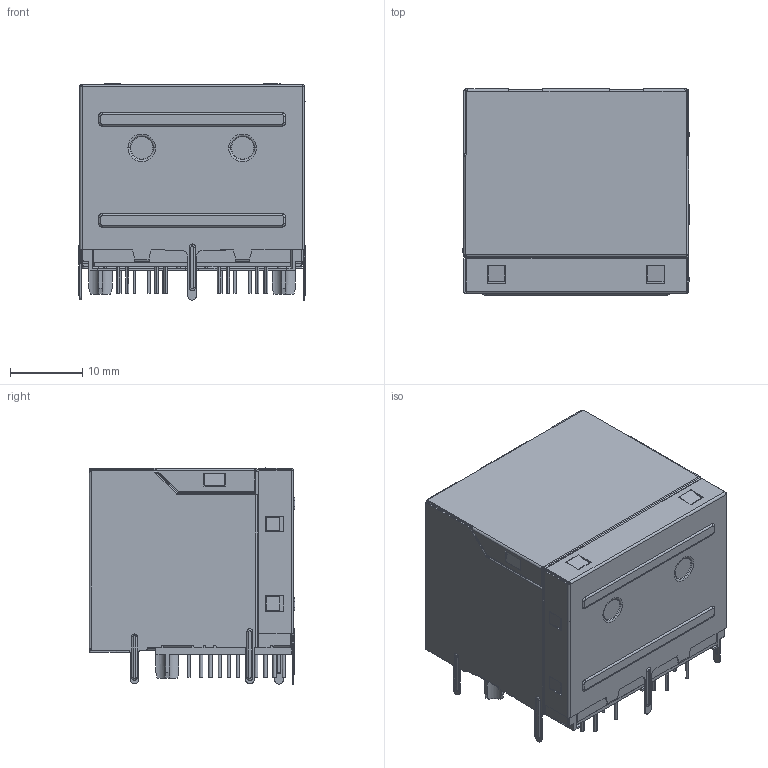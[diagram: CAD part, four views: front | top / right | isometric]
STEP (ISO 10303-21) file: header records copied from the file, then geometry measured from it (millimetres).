
FILE_DESCRIPTION((''),'2;1');
FILE_NAME('2X2_ASM_ASM_45_ASM_1_ASM_1_ASM','2024-01-19T11:02:25',('Administrator'),(''),'CREO PARAMETRIC BY PTC INC, 2019010','CREO PARAMETRIC BY PTC INC, 2019010','');
FILE_SCHEMA(('CONFIG_CONTROL_DESIGN'));
Products named in the file (3): 2X2-HOUSING_9_1_1; 2X2-MLED-SHIELD_4_1_1; 2X2_ASM_ASM_45_ASM_1_ASM_1_ASM
Assembly tree (2 placements, depth 2):
  2X2_ASM_ASM_45_ASM_1_ASM_1_ASM
    2X2-HOUSING_9_1_1
    2X2-MLED-SHIELD_4_1_1
Bounding box: 31.39 x 28.55 x 29.98 mm (x, y, z)
Volume: 12066.3 mm3; surface area: 23562.8 mm2
Topology: 2 solids, 2 shells, 4487 faces, 13532 edges, 8870 vertices
Faces by surface type: plane 3330, cylinder 1051, bspline 54, torus 44, sphere 4, cone 4
Entity records: 154204 total; most frequent: CARTESIAN_POINT 29673, ORIENTED_EDGE 27056, DIRECTION 24765, EDGE_CURVE 13528, VECTOR 10859, LINE 10859, VERTEX_POINT 8870, AXIS2_PLACEMENT_3D 6953
